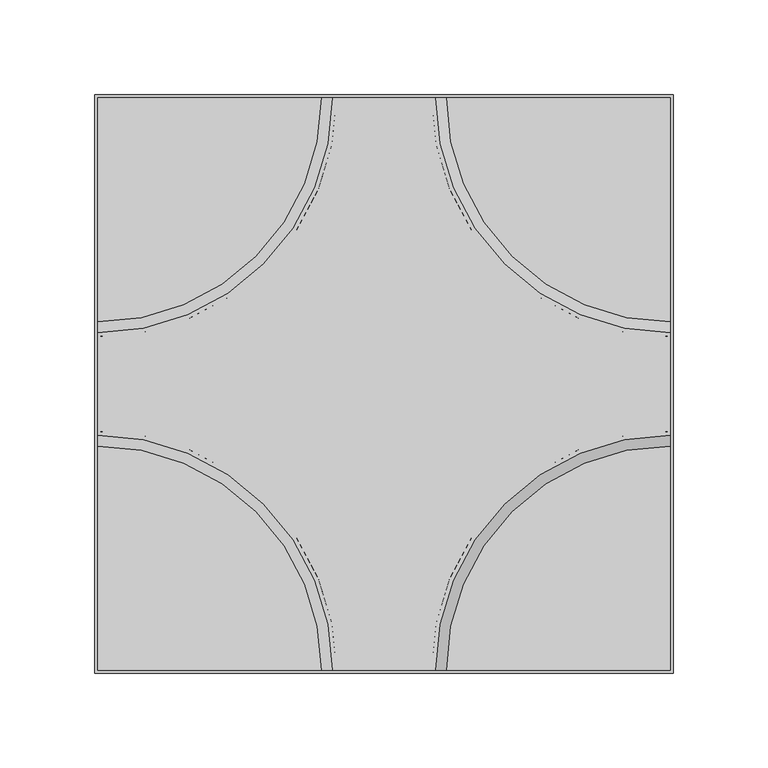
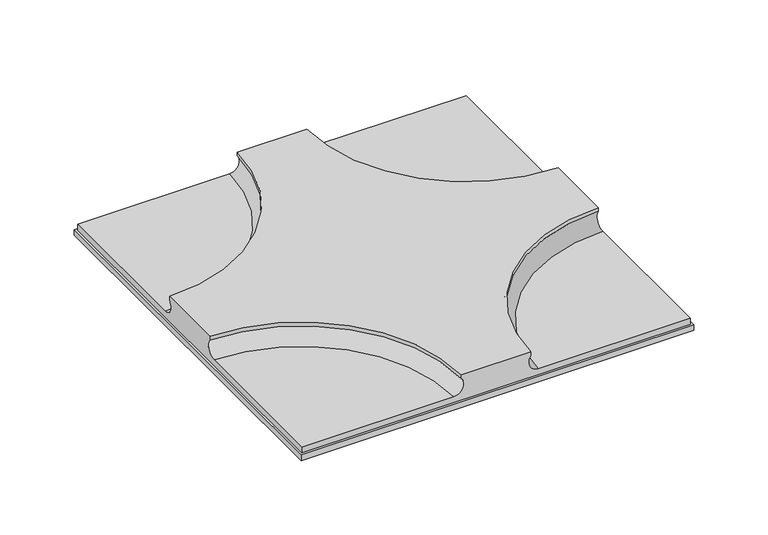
"""IFC4 building model written with IfcOpenShell, lengths in millimetres: proxy geometry, Spinneybeck_Quartile : Quartile 1."""

from ifc_helpers import new_model, si_unit, point, frame, origin, origin_with_axes, place, context, project, spatial, polyline, circle_curve, ellipse_curve, trimmed, outline, extrude, source, transform, mapped, element, save
from ifc_brep_helpers import plane_surface, revolved_surface, advanced_brep


def specialty_equipment_d3eebbf5(model_context):
    return source(origin(), model_context, "Body", "SolidModel", [
        advanced_brep(
        [(-150.8125, 26.9875, 25.4), (-150.8125, 26.9875, 22.225), (-150.8125, 32.7814171, 9.525), (-150.8125, 150.8125, 9.525), (-150.8125, 150.8125, 4.7625), (-150.8125, -150.8125, 4.7625), (-150.8125, -150.8125, 9.525), (-150.8125, -32.7814171, 9.525), (-150.8125, -26.9875, 22.225), (-150.8125, -26.9875, 25.4), (-32.7814171, 150.8125, 9.525), (-26.9875, 150.8125, 22.225), (-26.9875, 150.8125, 25.4), (26.9875, 150.8125, 25.4), (26.9875, 150.8125, 22.225), (32.7814171, 150.8125, 9.525), (150.8125, 150.8125, 9.525), (150.8125, 150.8125, 4.7625), (-26.9875, -150.8125, 25.4), (26.9875, -150.8125, 25.4), (150.8125, -26.9875, 25.4), (150.8125, 26.9875, 25.4), (-26.9875, -150.8125, 22.225), (-32.7814171, -150.8125, 9.525), (150.8125, -150.8125, 4.7625), (150.8125, -150.8125, 9.525), (32.7814171, -150.8125, 9.525), (26.9875, -150.8125, 22.225), (150.8125, 32.7814171, 9.525), (150.8125, 26.9875, 22.225), (150.8125, -26.9875, 22.225), (150.8125, -32.7814171, 9.525)],
        [
            (0, 1),
            (1, 2, circle_curve(frame((-150.8125, 32.7814171, 17.1966329), z_axis=(1.0, 0.0, 0.0), x_axis=(0.0, 1.0, 0.0)), 7.6716329)),
            (2, 3),
            (3, 4),
            (4, 5),
            (5, 6),
            (6, 7),
            (7, 8, circle_curve(frame((-150.8125, -32.7814171, 17.1966329), z_axis=(1.0, 0.0, 0.0), x_axis=(0.0, 1.0, 0.0)), 7.6716329)),
            (8, 9),
            (9, 0),
            (10, 11, circle_curve(frame((-32.7814171, 150.8125, 17.1966329), z_axis=(0.0, -1.0, 0.0), x_axis=(-1.0, 0.0, 0.0)), 7.6716329)),
            (11, 12),
            (12, 13),
            (13, 14),
            (14, 15, circle_curve(frame((32.7814171, 150.8125, 17.1966329), z_axis=(0.0, -1.0, 0.0), x_axis=(-1.0, 0.0, 0.0)), 7.6716329)),
            (15, 16),
            (16, 17),
            (17, 4),
            (3, 10),
            (12, 0, circle_curve(frame((-150.8125, 150.8125, 25.4), z_axis=(0.0, 0.0, -1.0), x_axis=(0.0, -1.0, 0.0)), 123.825)),
            (9, 18, circle_curve(frame((-150.8125, -150.8125, 25.4), z_axis=(0.0, 0.0, -1.0), x_axis=(0.0, 1.0, 0.0)), 123.825)),
            (18, 19),
            (19, 20, circle_curve(frame((150.8125, -150.8125, 25.4), z_axis=(0.0, 0.0, -1.0), x_axis=(0.0, 1.0, 0.0)), 123.825)),
            (20, 21),
            (21, 13, circle_curve(frame((150.8125, 150.8125, 25.4), z_axis=(0.0, 0.0, -1.0), x_axis=(0.0, -1.0, 0.0)), 123.825)),
            (1, 11, circle_curve(frame((-150.8125, 150.8125, 22.225), z_axis=(0.0, 0.0, 1.0), x_axis=(0.0, -1.0, 0.0)), 123.825)),
            (10, 2, circle_curve(frame((-150.8125, 150.8125, 9.525), z_axis=(0.0, 0.0, -1.0), x_axis=(0.0, -1.0, 0.0)), 118.0310829)),
            (18, 22),
            (22, 23, circle_curve(frame((-32.7814171, -150.8125, 17.1966329), z_axis=(0.0, 1.0, 0.0), x_axis=(1.0, 0.0, 0.0)), 7.6716329)),
            (23, 6),
            (5, 24),
            (24, 25),
            (25, 26),
            (26, 27, circle_curve(frame((32.7814171, -150.8125, 17.1966329), z_axis=(0.0, 1.0, 0.0), x_axis=(1.0, 0.0, 0.0)), 7.6716329)),
            (27, 19),
            (7, 23, circle_curve(frame((-150.8125, -150.8125, 9.525), z_axis=(0.0, 0.0, -1.0), x_axis=(0.0, 1.0, 0.0)), 118.0310829)),
            (22, 8, circle_curve(frame((-150.8125, -150.8125, 22.225), z_axis=(0.0, 0.0, 1.0), x_axis=(0.0, 1.0, 0.0)), 123.825)),
            (28, 29, circle_curve(frame((150.8125, 32.7814171, 17.1966329), z_axis=(-1.0, 0.0, 0.0), x_axis=(0.0, -1.0, 0.0)), 7.6716329)),
            (29, 21),
            (20, 30),
            (30, 31, circle_curve(frame((150.8125, -32.7814171, 17.1966329), z_axis=(-1.0, 0.0, 0.0), x_axis=(0.0, -1.0, 0.0)), 7.6716329)),
            (31, 25),
            (24, 17),
            (16, 28),
            (28, 15, circle_curve(frame((150.8125, 150.8125, 9.525), z_axis=(0.0, 0.0, -1.0), x_axis=(0.0, -1.0, 0.0)), 118.0310829)),
            (14, 29, circle_curve(frame((150.8125, 150.8125, 22.225), z_axis=(0.0, 0.0, 1.0), x_axis=(0.0, -1.0, 0.0)), 123.825)),
            (30, 27, circle_curve(frame((150.8125, -150.8125, 22.225), z_axis=(0.0, 0.0, 1.0), x_axis=(0.0, 1.0, 0.0)), 123.825)),
            (26, 31, circle_curve(frame((150.8125, -150.8125, 9.525), z_axis=(0.0, 0.0, -1.0), x_axis=(0.0, 1.0, 0.0)), 118.0310829)),
        ],
        [
            plane_surface(frame((-150.8125, 26.9875, 9.525), z_axis=(-1.0, 0.0, 0.0), x_axis=(0.0, 0.0, 1.0))),
            plane_surface(frame((-26.9875, 150.8125, 9.525), z_axis=(0.0, 1.0, 0.0), x_axis=(0.0, 0.0, 1.0))),
            plane_surface(frame((-150.8125, 150.8125, 25.4), z_axis=(0.0, 0.0, 1.0), x_axis=(0.0, -1.0, 0.0))),
            revolved_surface(trimmed(ellipse_curve(frame((-150.8125, 32.7814171, 17.1966329), z_axis=(1.0, 0.0, 0.0), x_axis=(0.0, 1.0, 0.0)), 7.6716329, 7.6716329), [point((-150.8125, 26.9875, 22.225))], [point((-150.8125, 32.7814171, 9.525))], True, "CARTESIAN"), (-150.8125, 150.8125, 9.525), (0.0, 0.0, 1.0)),
            revolved_surface(polyline([(-150.8125, 26.987499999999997, 25.4), (-150.8125, 26.987499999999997, 22.225)]), (-150.8125, 150.8125, 9.525), (0.0, 0.0, 1.0)),
            plane_surface(frame((-26.9875, -150.8125, 9.525), z_axis=(0.0, -1.0, 0.0), x_axis=(0.0, 0.0, 1.0))),
            revolved_surface(trimmed(ellipse_curve(frame((-150.8125, -32.7814171, 17.1966329), z_axis=(1.0, 0.0, 0.0), x_axis=(0.0, 1.0, 0.0)), 7.6716329, 7.6716329), [point((-150.8125, -32.7814171, 9.525))], [point((-150.8125, -26.9875, 22.225))], True, "CARTESIAN"), (-150.8125, -150.8125, 9.525), (0.0, 0.0, -1.0)),
            revolved_surface(polyline([(-150.8125, -26.987499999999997, 22.225), (-150.8125, -26.987499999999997, 25.4)]), (-150.8125, -150.8125, 9.525), (0.0, 0.0, -1.0)),
            plane_surface(frame((150.8125, 26.9875, 9.525), z_axis=(1.0, 0.0, 0.0), x_axis=(0.0, 0.0, 1.0))),
            revolved_surface(trimmed(ellipse_curve(frame((150.8125, 32.7814171, 17.1966329), z_axis=(-1.0, 0.0, 0.0), x_axis=(0.0, -1.0, 0.0)), 7.6716329, 7.6716329), [point((150.8125, 32.7814171, 9.525))], [point((150.8125, 26.9875, 22.225))], True, "CARTESIAN"), (150.8125, 150.8125, 9.525), (0.0, 0.0, -1.0)),
            revolved_surface(polyline([(150.8125, 26.987499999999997, 22.225), (150.8125, 26.987499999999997, 25.4)]), (150.8125, 150.8125, 9.525), (0.0, 0.0, -1.0)),
            revolved_surface(trimmed(ellipse_curve(frame((150.8125, -32.7814171, 17.1966329), z_axis=(-1.0, 0.0, 0.0), x_axis=(0.0, -1.0, 0.0)), 7.6716329, 7.6716329), [point((150.8125, -26.9875, 22.225))], [point((150.8125, -32.7814171, 9.525))], True, "CARTESIAN"), (150.8125, -150.8125, 9.525), (0.0, 0.0, 1.0)),
            revolved_surface(polyline([(150.8125, -26.987499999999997, 25.4), (150.8125, -26.987499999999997, 22.225)]), (150.8125, -150.8125, 9.525), (0.0, 0.0, 1.0)),
            plane_surface(frame((0.0, 0.0, 4.7625), z_axis=(0.0, 0.0, -1.0), x_axis=(0.0, -1.0, 0.0))),
            plane_surface(frame((0.0, 0.0, 9.525), z_axis=(0.0, 0.0, 1.0), x_axis=(0.0, -1.0, 0.0))),
        ],
        [
            (0, [[1, 2, 3, 4, 5, 6, 7, 8, 9, 10]]),
            (1, [[11, 12, 13, 14, 15, 16, 17, 18, -4, 19]]),
            (2, [[20, -10, 21, 22, 23, 24, 25, -13]]),
            (3, [[-2, 26, -11, 27]]),
            (4, [[-1, -20, -12, -26]]),
            (5, [[28, 29, 30, -6, 31, 32, 33, 34, 35, -22]]),
            (6, [[-8, 36, -29, 37]]),
            (7, [[-9, -37, -28, -21]]),
            (8, [[38, 39, -24, 40, 41, 42, -32, 43, -17, 44]]),
            (9, [[-38, 45, -15, 46]]),
            (10, [[-39, -46, -14, -25]]),
            (11, [[-41, 47, -34, 48]]),
            (12, [[-40, -23, -35, -47]]),
            (13, [[-43, -31, -5, -18]]),
            (14, [[-3, -27, -19]]),
            (14, [[-7, -30, -36]]),
            (14, [[-16, -45, -44]]),
            (14, [[-42, -48, -33]]),
        ],
    ),
        extrude(outline(polyline([(152.4, 152.4), (152.4, -152.4), (-152.4, -152.4), (-152.4, 152.4), (152.4, 152.4)])), origin_with_axes(), (0.0, 0.0, 1.0), 4.7625),
    ])


if __name__ == "__main__":
    model = new_model("IFC4")
    model_context = context("Model", 3, world=origin())
    ifc_project = project(units=[si_unit("LENGTHUNIT", "METRE", prefix="MILLI")], contexts=[model_context])
    site = spatial("IfcSite", under=ifc_project)
    building = spatial("IfcBuilding", under=site)
    placement = place(None, origin())
    specialty_equipment_shape = specialty_equipment_d3eebbf5(model_context)
    element("IfcBuildingElementProxy", 1, Name="Spinneybeck_Quartile : Quartile 1", ObjectType="Spinneybeck_Quartile : Quartile 1", at=placement, inside=building, context=model_context, shape_type="MappedRepresentation", body=[
        mapped(specialty_equipment_shape, transform((0.0, 0.0, 0.0), x_axis=(1.0, 0.0, 0.0), y_axis=(0.0, 1.0, 0.0), z_axis=(0.0, 0.0, 1.0))),
    ])
    save(model, "model.ifc")
